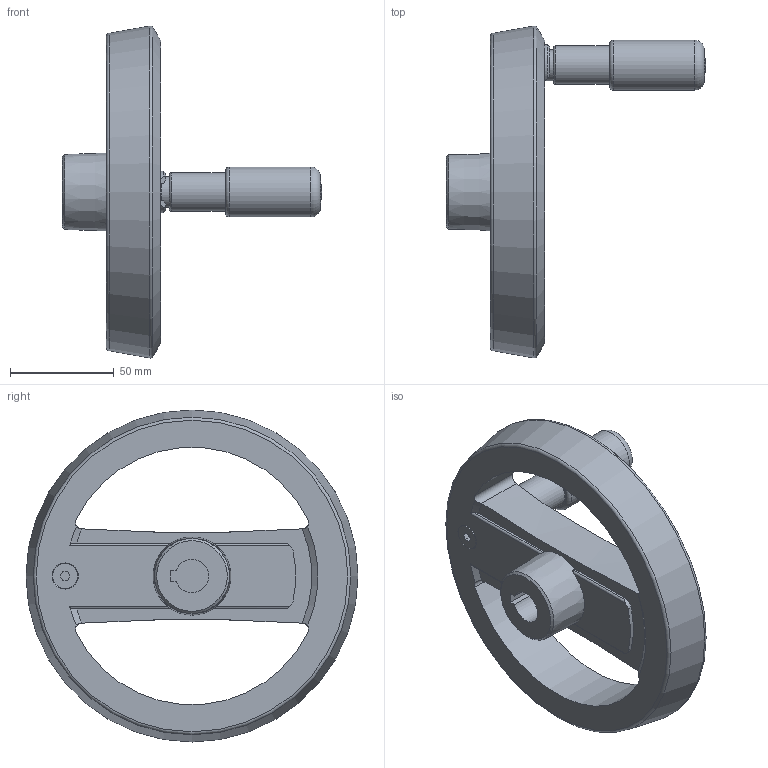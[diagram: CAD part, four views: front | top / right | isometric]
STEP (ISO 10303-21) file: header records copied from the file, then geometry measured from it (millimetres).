
FILE_DESCRIPTION( ( 'STEP AP203' ), '1' );
FILE_NAME( 'C:/Temp/Ganter_Step_05_03_2020/data/1_3/gn_924_7/gn_924_7_k/Handwheel with retractable handle GN 924.7-160-K16-R-SW (activated).stp', '2020-03-05T10:42:06', ( 'License CC BY-ND 4.0' ), ( 'CADENAS' ), ' ', 'PARTsolutions', ' ' );
FILE_SCHEMA( ( 'CONFIG_CONTROL_DESIGN' ) );
Length unit declared in the file: millimetre
Products named in the file (3): Handwheel with retractable handle GN 924.7-160-K16-R-SW (activated); _Umleggriff-Handrad GN 924.7-160-K16-R-SW-1; _Umleggriff-Handrad GN 924.7-160-K16-R-SW (90)-2
Assembly tree (2 placements, depth 2):
  Handwheel with retractable handle GN 924.7-160-K16-R-SW (activated)
    _Umleggriff-Handrad GN 924.7-160-K16-R-SW-1
    _Umleggriff-Handrad GN 924.7-160-K16-R-SW (90)-2
Bounding box: 124.7 x 159.68 x 159.68 mm (x, y, z)
Volume: 294058.4 mm3; surface area: 66302.2 mm2
Topology: 2 solids, 2 shells, 109 faces, 281 edges, 181 vertices
Faces by surface type: plane 45, cylinder 42, cone 12, torus 8, sphere 2
Full cylindrical faces by diameter (mm): 4 x4, 5 x1, 8 x1, 12 x1, 15 x1, 18.5 x1, 20 x1, 24 x1, 25 x1, 26.6 x1
Entity records: 3602 total; most frequent: CARTESIAN_POINT 999, DIRECTION 518, ORIENTED_EDGE 486, EDGE_CURVE 243, AXIS2_PLACEMENT_3D 214, VERTEX_POINT 175, EDGE_LOOP 151, FACE_OUTER_BOUND 129
